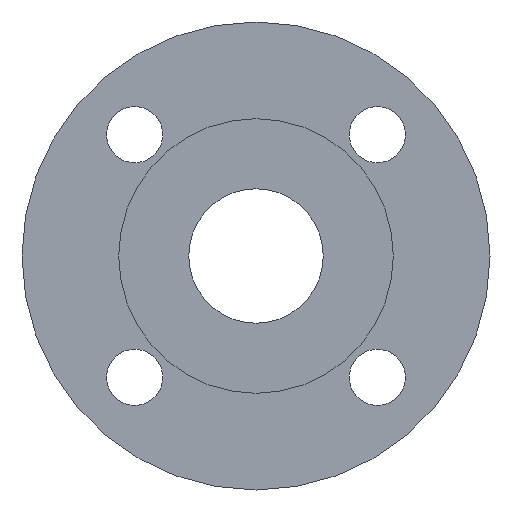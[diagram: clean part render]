
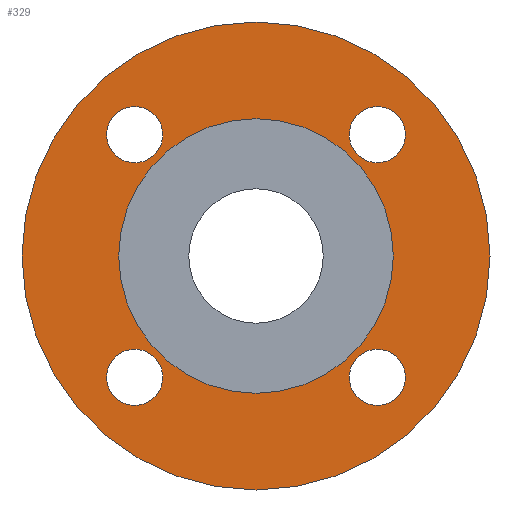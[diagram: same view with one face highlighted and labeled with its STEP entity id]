
A CAD part, left-side view. The second image highlights one B-rep face of the part: STEP entity #329.
In plain terms, the highlighted planar face has unit normal (-1, 0, 0).
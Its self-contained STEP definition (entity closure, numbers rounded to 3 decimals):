
#23=FACE_BOUND('',#70,.T.);
#24=FACE_BOUND('',#71,.T.);
#25=FACE_BOUND('',#72,.T.);
#26=FACE_BOUND('',#73,.T.);
#27=FACE_BOUND('',#74,.T.);
#32=PLANE('',#396);
#46=FACE_OUTER_BOUND('',#69,.T.);
#69=EDGE_LOOP('',(#282,#283));
#70=EDGE_LOOP('',(#284));
#71=EDGE_LOOP('',(#285));
#72=EDGE_LOOP('',(#286));
#73=EDGE_LOOP('',(#287));
#74=EDGE_LOOP('',(#288,#289));
#102=CIRCLE('',#357,9.);
#105=CIRCLE('',#361,9.);
#108=CIRCLE('',#365,9.);
#111=CIRCLE('',#369,9.);
#129=CIRCLE('',#394,44.);
#130=CIRCLE('',#395,44.);
#131=CIRCLE('',#397,75.);
#132=CIRCLE('',#398,75.);
#138=VERTEX_POINT('',#528);
#141=VERTEX_POINT('',#536);
#144=VERTEX_POINT('',#544);
#147=VERTEX_POINT('',#552);
#164=VERTEX_POINT('',#597);
#165=VERTEX_POINT('',#598);
#166=VERTEX_POINT('',#603);
#167=VERTEX_POINT('',#604);
#174=EDGE_CURVE('',#138,#138,#102,.T.);
#178=EDGE_CURVE('',#141,#141,#105,.T.);
#182=EDGE_CURVE('',#144,#144,#108,.T.);
#186=EDGE_CURVE('',#147,#147,#111,.T.);
#206=EDGE_CURVE('',#164,#165,#129,.T.);
#207=EDGE_CURVE('',#165,#164,#130,.T.);
#209=EDGE_CURVE('',#166,#167,#131,.T.);
#210=EDGE_CURVE('',#167,#166,#132,.T.);
#282=ORIENTED_EDGE('',*,*,#209,.F.);
#283=ORIENTED_EDGE('',*,*,#210,.F.);
#284=ORIENTED_EDGE('',*,*,#174,.T.);
#285=ORIENTED_EDGE('',*,*,#178,.T.);
#286=ORIENTED_EDGE('',*,*,#182,.T.);
#287=ORIENTED_EDGE('',*,*,#186,.T.);
#288=ORIENTED_EDGE('',*,*,#206,.T.);
#289=ORIENTED_EDGE('',*,*,#207,.T.);
#329=ADVANCED_FACE('',(#46,#23,#24,#25,#26,#27),#32,.T.);
#357=AXIS2_PLACEMENT_3D('',#530,#415,#416);
#361=AXIS2_PLACEMENT_3D('',#538,#424,#425);
#365=AXIS2_PLACEMENT_3D('',#546,#433,#434);
#369=AXIS2_PLACEMENT_3D('',#554,#442,#443);
#394=AXIS2_PLACEMENT_3D('',#599,#494,#495);
#395=AXIS2_PLACEMENT_3D('',#600,#496,#497);
#396=AXIS2_PLACEMENT_3D('',#602,#499,#500);
#397=AXIS2_PLACEMENT_3D('',#605,#501,#502);
#398=AXIS2_PLACEMENT_3D('',#606,#503,#504);
#415=DIRECTION('center_axis',(1.,0.,0.));
#416=DIRECTION('ref_axis',(0.,-1.,0.));
#424=DIRECTION('center_axis',(1.,0.,0.));
#425=DIRECTION('ref_axis',(0.,0.,1.));
#433=DIRECTION('center_axis',(1.,0.,0.));
#434=DIRECTION('ref_axis',(0.,1.,0.));
#442=DIRECTION('center_axis',(1.,0.,0.));
#443=DIRECTION('ref_axis',(0.,0.,-1.));
#494=DIRECTION('center_axis',(1.,0.,0.));
#495=DIRECTION('ref_axis',(0.,0.,-1.));
#496=DIRECTION('center_axis',(1.,0.,0.));
#497=DIRECTION('ref_axis',(0.,0.,-1.));
#499=DIRECTION('center_axis',(-1.,0.,0.));
#500=DIRECTION('ref_axis',(0.,0.,1.));
#501=DIRECTION('center_axis',(1.,0.,0.));
#502=DIRECTION('ref_axis',(0.,0.,-1.));
#503=DIRECTION('center_axis',(1.,0.,0.));
#504=DIRECTION('ref_axis',(0.,0.,-1.));
#528=CARTESIAN_POINT('',(-42.,47.891,-38.891));
#530=CARTESIAN_POINT('Origin',(-42.,38.891,-38.891));
#536=CARTESIAN_POINT('',(-42.,-38.891,-47.891));
#538=CARTESIAN_POINT('Origin',(-42.,-38.891,-38.891));
#544=CARTESIAN_POINT('',(-42.,-47.891,38.891));
#546=CARTESIAN_POINT('Origin',(-42.,-38.891,38.891));
#552=CARTESIAN_POINT('',(-42.,38.891,47.891));
#554=CARTESIAN_POINT('Origin',(-42.,38.891,38.891));
#597=CARTESIAN_POINT('',(-42.,44.,0.));
#598=CARTESIAN_POINT('',(-42.,-44.,0.));
#599=CARTESIAN_POINT('Origin',(-42.,0.,0.));
#600=CARTESIAN_POINT('Origin',(-42.,0.,0.));
#602=CARTESIAN_POINT('Origin',(-42.,75.,0.));
#603=CARTESIAN_POINT('',(-42.,75.,0.));
#604=CARTESIAN_POINT('',(-42.,-75.,0.));
#605=CARTESIAN_POINT('Origin',(-42.,0.,0.));
#606=CARTESIAN_POINT('Origin',(-42.,0.,0.));
